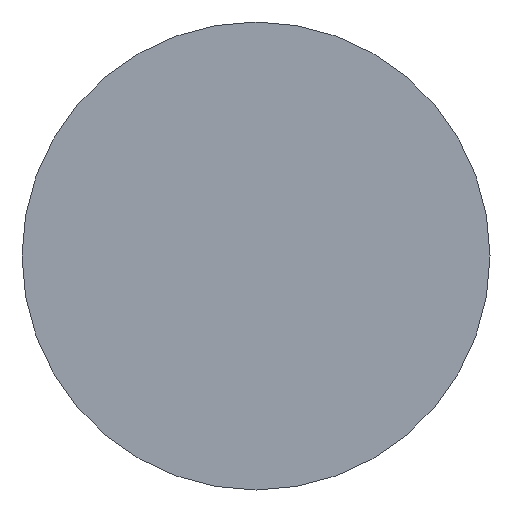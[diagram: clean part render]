
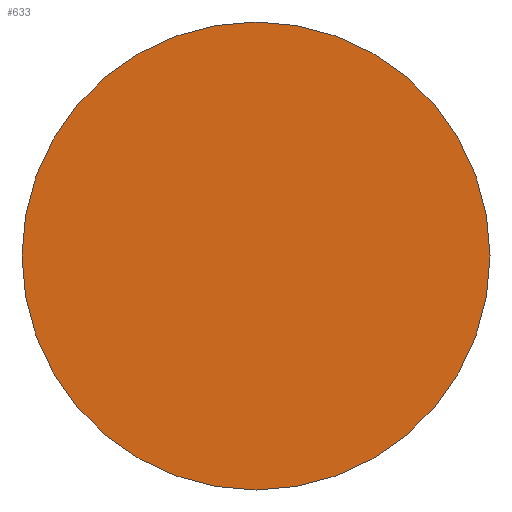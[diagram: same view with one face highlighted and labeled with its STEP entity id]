
A CAD part, front view. The second image highlights one B-rep face of the part: STEP entity #633.
In plain terms, the highlighted planar face has unit normal (0, -1, 0).
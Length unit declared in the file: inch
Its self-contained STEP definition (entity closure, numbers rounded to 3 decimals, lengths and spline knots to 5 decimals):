
#72 = CARTESIAN_POINT ( 'NONE',  ( 0., -68.69913, 0. ) ) ;
#199 = CARTESIAN_POINT ( 'NONE',  ( 0., -68.69913, 0. ) ) ;
#200 = FACE_OUTER_BOUND ( 'NONE', #728, .T. ) ;
#283 = CARTESIAN_POINT ( 'NONE',  ( 0., -68.69913, 2.36 ) ) ;
#299 = CARTESIAN_POINT ( 'NONE',  ( 0., -68.69913, 0. ) ) ;
#301 = DIRECTION ( 'NONE',  ( 0., 1., 0. ) ) ;
#320 = ORIENTED_EDGE ( 'NONE', *, *, #1089, .F. ) ;
#366 = AXIS2_PLACEMENT_3D ( 'NONE', #299, #724, #926 ) ;
#489 = DIRECTION ( 'NONE',  ( 0., 1., 0. ) ) ;
#633 = ADVANCED_FACE ( 'NONE', ( #200 ), #703, .F. ) ;
#636 = VERTEX_POINT ( 'NONE', #283 ) ;
#703 = PLANE ( 'NONE',  #1044 ) ;
#724 = DIRECTION ( 'NONE',  ( 0., 1., 0. ) ) ;
#728 = EDGE_LOOP ( 'NONE', ( #320, #895 ) ) ;
#778 = CIRCLE ( 'NONE', #366, 2.36 ) ;
#895 = ORIENTED_EDGE ( 'NONE', *, *, #1339, .F. ) ;
#915 = CIRCLE ( 'NONE', #955, 2.36 ) ;
#921 = DIRECTION ( 'NONE',  ( 0., 0., 1. ) ) ;
#926 = DIRECTION ( 'NONE',  ( 0., 0., 1. ) ) ;
#955 = AXIS2_PLACEMENT_3D ( 'NONE', #199, #301, #1331 ) ;
#1035 = CARTESIAN_POINT ( 'NONE',  ( 0., -68.69913, -2.36 ) ) ;
#1044 = AXIS2_PLACEMENT_3D ( 'NONE', #72, #489, #921 ) ;
#1089 = EDGE_CURVE ( 'NONE', #636, #1337, #915, .T. ) ;
#1331 = DIRECTION ( 'NONE',  ( 0., 0., 1. ) ) ;
#1337 = VERTEX_POINT ( 'NONE', #1035 ) ;
#1339 = EDGE_CURVE ( 'NONE', #1337, #636, #778, .T. ) ;
